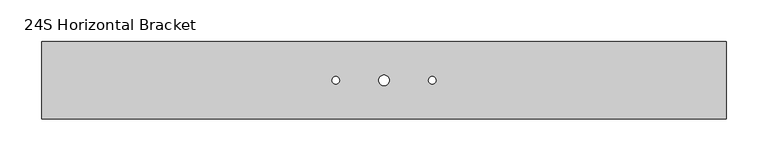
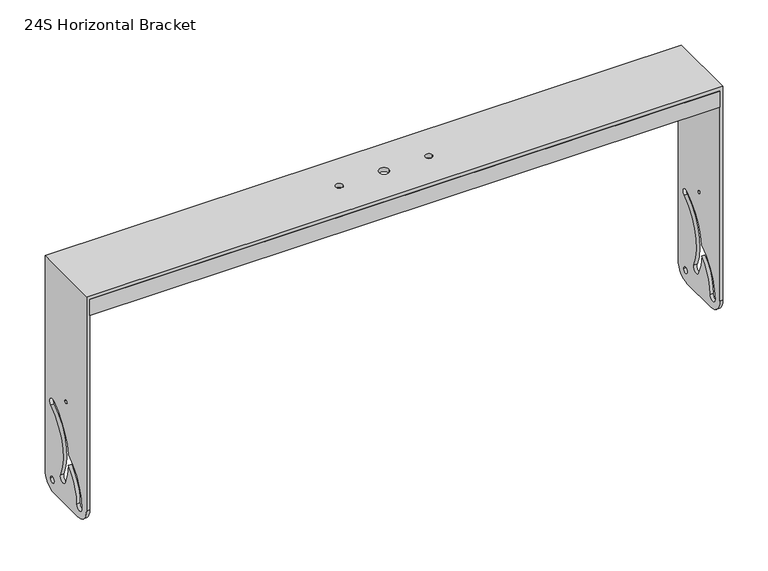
"""IFC4 building model written with IfcOpenShell, lengths in millimetres: proxy geometry, d&b xS-Series 24S Horizontal Bracket : 24S Horizontal Bracket."""

from ifc_helpers import new_model, si_unit, frame, origin, place, context, project, spatial, polyline, circle_curve, outline, extrude, source, transform, mapped, element, save
from ifc_brep_helpers import plane_surface, cylinder_surface, revolved_surface, advanced_brep


def proxy_24s_horizontal_bracket_f759a5f4(model_context):
    return source(origin(), model_context, "Body", "SolidModel", [
        extrude(outline(polyline([(-403.5, -65.7393957), (-403.5, -62.7393957), (403.5, -62.7393957), (403.5, -65.7393957), (-403.5, -65.7393957)])), frame((0.0, 0.0, 290.7707456), z_axis=(0.0, 0.0, 1.0), x_axis=(1.0, 0.0, 0.0)), (0.0, 0.0, 1.0), 22.0),
        extrude(outline(polyline([(-403.5, 23.2606043), (-403.5, 26.2606043), (403.5, 26.2606043), (403.5, 23.2606043), (-403.5, 23.2606043)])), frame((0.0, 0.0, 290.7707456), z_axis=(0.0, 0.0, 1.0), x_axis=(1.0, 0.0, 0.0)), (0.0, 0.0, 1.0), 22.0),
        advanced_brep(
        [(-403.5, 26.2606043, 312.7707456), (-403.5, 26.2606043, 27.7707456), (-407.5, 26.2606043, 27.7707456), (-407.5, 26.2606043, 317.7707456), (407.5, 26.2606043, 317.7707456), (407.5, 26.2606043, 27.7707456), (403.5, 26.2606043, 27.7707456), (403.5, 26.2606043, 312.7707456), (-407.5, -65.7393957, 317.7707456), (-407.5, -65.7393957, 27.7707456), (-403.5, -65.7393957, 27.7707456), (-403.5, -65.7393957, 312.7707456), (403.5, -65.7393957, 312.7707456), (403.5, -65.7393957, 27.7707456), (407.5, -65.7393957, 27.7707456), (407.5, -65.7393957, 317.7707456), (-407.5, 6.2606043, 7.7707456), (-403.5, 6.2606043, 7.7707456), (-403.5, -45.7393957, 7.7707456), (-407.5, -45.7393957, 7.7707456), (-403.5, 6.2606043, 23.7707456), (-403.5, 14.2606043, 23.7707456), (-403.5, -55.239364, 23.7891854), (-403.5, -25.0822236, 78.9466081), (-403.5, 7.223679, 132.2617377), (-403.5, 13.6600188, 123.3378724), (-403.5, -8.4105059, 41.8172211), (-403.5, -18.3552834, 37.1160087), (-403.5, -25.5071972, 64.9060793), (-403.5, -44.2393971, 23.7734128), (-403.5, -21.7393957, 147.7707456), (-403.5, -17.7393957, 147.7707456), (-6.25, -19.7393957, 312.7707456), (6.25, -19.7393957, 312.7707456), (-62.0, -19.7393957, 312.7707456), (-53.0, -19.7393957, 312.7707456), (62.0, -19.7393957, 312.7707456), (53.0, -19.7393957, 312.7707456), (403.5, 6.2606043, 7.7707456), (403.5, -45.7393957, 7.7707456), (403.5, 14.2606043, 23.7707456), (403.5, 6.2606043, 23.7707456), (403.5, -44.2393971, 23.7734128), (403.5, -25.5071972, 64.9060793), (403.5, -18.3552834, 37.1160087), (403.5, -8.4105059, 41.8172211), (403.5, 13.6600188, 123.3378724), (403.5, 7.2266422, 132.2574429), (403.5, -25.0822236, 78.9466081), (403.5, -55.239364, 23.7891854), (403.5, -17.7393957, 147.7707456), (403.5, -21.7393957, 147.7707456), (407.5, 6.2606043, 7.7707456), (407.5, -45.7393957, 7.7707456), (407.5, 6.2606043, 23.7707456), (407.5, 14.2606043, 23.7707456), (407.5, -55.239364, 23.7891854), (407.5, -25.0822236, 78.9466081), (407.5, 7.223679, 132.2617377), (407.5, 13.6600188, 123.3378724), (407.5, -8.4105059, 41.8172211), (407.5, -18.3552834, 37.1160087), (407.5, -25.5071972, 64.9060793), (407.5, -44.2393971, 23.7734128), (407.5, -21.7393957, 147.7707456), (407.5, -17.7393957, 147.7707456), (6.25, -19.7393957, 317.7707456), (-6.25, -19.7393957, 317.7707456), (-53.0, -19.7393957, 317.7707456), (-62.0, -19.7393957, 317.7707456), (53.0, -19.7393957, 317.7707456), (62.0, -19.7393957, 317.7707456), (-407.5, 14.2606043, 23.7707456), (-407.5, 6.2606043, 23.7707456), (-407.5, -44.2393971, 23.7734128), (-407.5, -25.5071972, 64.9060793), (-407.5, -18.3552834, 37.1160087), (-407.5, -8.4105059, 41.8172211), (-407.5, 13.6600188, 123.3378724), (-407.5, 7.2266422, 132.2574429), (-407.5, -25.0822236, 78.9466081), (-407.5, -55.239364, 23.7891854), (-407.5, -17.7393957, 147.7707456), (-407.5, -21.7393957, 147.7707456)],
        [
            (0, 1),
            (1, 2),
            (2, 3),
            (3, 4),
            (4, 5),
            (5, 6),
            (6, 7),
            (7, 0),
            (8, 9),
            (9, 10),
            (10, 11),
            (11, 12),
            (12, 13),
            (13, 14),
            (14, 15),
            (15, 8),
            (16, 17),
            (17, 18),
            (18, 19),
            (19, 16),
            (10, 18, circle_curve(frame((-403.5, -45.7393957, 27.7707456), z_axis=(1.0, 0.0, 0.0), x_axis=(0.0, 0.0, -1.0)), 20.0)),
            (17, 1, circle_curve(frame((-403.5, 6.2606043, 27.7707456), z_axis=(1.0, 0.0, 0.0), x_axis=(0.0, 0.0, -1.0)), 20.0)),
            (0, 11),
            (20, 21, circle_curve(frame((-403.5, 10.2606043, 23.7707456), z_axis=(-1.0, 0.0, 0.0), x_axis=(0.0, -1.0, 0.0)), 4.0)),
            (21, 20, circle_curve(frame((-403.5, 10.2606043, 23.7707456), z_axis=(-1.0, 0.0, 0.0), x_axis=(0.0, -1.0, 0.0)), 4.0)),
            (22, 23, circle_curve(frame((-403.5, 10.4991012, 23.6697649), z_axis=(-1.0, 0.0, 0.0), x_axis=(0.0, -1.0, 0.0)), 65.7385737)),
            (23, 24, circle_curve(frame((-403.5, 50.4326597, 69.6342558), z_axis=(-1.0, 0.0, 0.0), x_axis=(0.0, -1.0, 0.0)), 76.0869076)),
            (24, 25, circle_curve(frame((-403.5, 10.3500362, 127.7303677), z_axis=(-1.0, 0.0, 0.0), x_axis=(0.0, -1.0, 0.0)), 5.5)),
            (25, 26, circle_curve(frame((-403.5, 50.4326597, 69.6342558), z_axis=(1.0, 0.0, 0.0), x_axis=(0.0, -1.0, 0.0)), 65.0869077)),
            (26, 27, circle_curve(frame((-403.5, -13.3828946, 39.4666149), z_axis=(-1.0, 0.0, 0.0), x_axis=(0.0, -1.0, 0.0)), 5.5)),
            (27, 28, circle_curve(frame((-403.5, 50.4326597, 69.6342558), z_axis=(-1.0, 0.0, 0.0), x_axis=(0.0, -1.0, 0.0)), 76.0869077)),
            (28, 29, circle_curve(frame((-403.5, 10.2288078, 23.799827), z_axis=(1.0, 0.0, 0.0), x_axis=(0.0, -1.0, 0.0)), 54.4682113)),
            (29, 22, circle_curve(frame((-403.5, -49.7393957, 23.7707456), z_axis=(-1.0, 0.0, 0.0), x_axis=(0.0, -1.0, 0.0)), 5.4999992)),
            (30, 31, circle_curve(frame((-403.5, -19.7393957, 147.7707456), z_axis=(-1.0, 0.0, 0.0), x_axis=(0.0, -1.0, 0.0)), 2.0)),
            (31, 30, circle_curve(frame((-403.5, -19.7393957, 147.7707456), z_axis=(-1.0, 0.0, 0.0), x_axis=(0.0, -1.0, 0.0)), 2.0)),
            (7, 12),
            (32, 33, circle_curve(frame((0.0, -19.7393957, 312.7707456), z_axis=(0.0, 0.0, 1.0), x_axis=(1.0, 0.0, 0.0)), 6.25)),
            (33, 32, circle_curve(frame((0.0, -19.7393957, 312.7707456), z_axis=(0.0, 0.0, 1.0), x_axis=(1.0, 0.0, 0.0)), 6.25)),
            (34, 35, circle_curve(frame((-57.5, -19.7393957, 312.7707456), z_axis=(0.0, 0.0, 1.0), x_axis=(1.0, 0.0, 0.0)), 4.5)),
            (35, 34, circle_curve(frame((-57.5, -19.7393957, 312.7707456), z_axis=(0.0, 0.0, 1.0), x_axis=(1.0, 0.0, 0.0)), 4.5)),
            (36, 37, circle_curve(frame((57.5, -19.7393957, 312.7707456), z_axis=(0.0, 0.0, 1.0), x_axis=(-1.0, 0.0, 0.0)), 4.5)),
            (37, 36, circle_curve(frame((57.5, -19.7393957, 312.7707456), z_axis=(0.0, 0.0, 1.0), x_axis=(-1.0, 0.0, 0.0)), 4.5)),
            (6, 38, circle_curve(frame((403.5, 6.2606043, 27.7707456), z_axis=(-1.0, 0.0, 0.0), x_axis=(0.0, 0.0, -1.0)), 20.0)),
            (38, 39),
            (39, 13, circle_curve(frame((403.5, -45.7393957, 27.7707456), z_axis=(-1.0, 0.0, 0.0), x_axis=(0.0, 0.0, -1.0)), 20.0)),
            (40, 41, circle_curve(frame((403.5, 10.2606043, 23.7707456), z_axis=(1.0, 0.0, 0.0), x_axis=(0.0, -1.0, 0.0)), 4.0)),
            (41, 40, circle_curve(frame((403.5, 10.2606043, 23.7707456), z_axis=(1.0, 0.0, 0.0), x_axis=(0.0, -1.0, 0.0)), 4.0)),
            (42, 43, circle_curve(frame((403.5, 10.2288078, 23.799827), z_axis=(-1.0, 0.0, 0.0), x_axis=(0.0, -1.0, 0.0)), 54.4682113)),
            (43, 44, circle_curve(frame((403.5, 50.4326597, 69.6342558), z_axis=(1.0, 0.0, 0.0), x_axis=(0.0, -1.0, 0.0)), 76.0869077)),
            (44, 45, circle_curve(frame((403.5, -13.3828946, 39.4666149), z_axis=(1.0, 0.0, 0.0), x_axis=(0.0, -1.0, 0.0)), 5.5)),
            (45, 46, circle_curve(frame((403.5, 50.4326597, 69.6342558), z_axis=(-1.0, 0.0, 0.0), x_axis=(0.0, -1.0, 0.0)), 65.0869077)),
            (46, 47, circle_curve(frame((403.5, 10.3500362, 127.7303677), z_axis=(1.0, 0.0, 0.0), x_axis=(0.0, -1.0, 0.0)), 5.5)),
            (47, 48, circle_curve(frame((403.5, 50.4326597, 69.6342558), z_axis=(1.0, 0.0, 0.0), x_axis=(0.0, -1.0, 0.0)), 76.0869076)),
            (48, 49, circle_curve(frame((403.5, 10.4991012, 23.6697649), z_axis=(1.0, 0.0, 0.0), x_axis=(0.0, -1.0, 0.0)), 65.7385737)),
            (49, 42, circle_curve(frame((403.5, -49.7393957, 23.7707456), z_axis=(1.0, 0.0, 0.0), x_axis=(0.0, -1.0, 0.0)), 5.4999992)),
            (50, 51, circle_curve(frame((403.5, -19.7393957, 147.7707456), z_axis=(1.0, 0.0, 0.0), x_axis=(0.0, -1.0, 0.0)), 2.0)),
            (51, 50, circle_curve(frame((403.5, -19.7393957, 147.7707456), z_axis=(1.0, 0.0, 0.0), x_axis=(0.0, -1.0, 0.0)), 2.0)),
            (38, 52),
            (52, 53),
            (53, 39),
            (14, 53, circle_curve(frame((407.5, -45.7393957, 27.7707456), z_axis=(1.0, 0.0, 0.0), x_axis=(0.0, 0.0, -1.0)), 20.0)),
            (52, 5, circle_curve(frame((407.5, 6.2606043, 27.7707456), z_axis=(1.0, 0.0, 0.0), x_axis=(0.0, 0.0, -1.0)), 20.0)),
            (4, 15),
            (54, 55, circle_curve(frame((407.5, 10.2606043, 23.7707456), z_axis=(-1.0, 0.0, 0.0), x_axis=(0.0, -1.0, 0.0)), 4.0)),
            (55, 54, circle_curve(frame((407.5, 10.2606043, 23.7707456), z_axis=(-1.0, 0.0, 0.0), x_axis=(0.0, -1.0, 0.0)), 4.0)),
            (56, 57, circle_curve(frame((407.5, 10.4991012, 23.6697649), z_axis=(-1.0, 0.0, 0.0), x_axis=(0.0, -1.0, 0.0)), 65.7385737)),
            (57, 58, circle_curve(frame((407.5, 50.4326597, 69.6342558), z_axis=(-1.0, 0.0, 0.0), x_axis=(0.0, -1.0, 0.0)), 76.0869076)),
            (58, 59, circle_curve(frame((407.5, 10.3500362, 127.7303677), z_axis=(-1.0, 0.0, 0.0), x_axis=(0.0, -1.0, 0.0)), 5.5)),
            (59, 60, circle_curve(frame((407.5, 50.4326597, 69.6342558), z_axis=(1.0, 0.0, 0.0), x_axis=(0.0, -1.0, 0.0)), 65.0869077)),
            (60, 61, circle_curve(frame((407.5, -13.3828946, 39.4666149), z_axis=(-1.0, 0.0, 0.0), x_axis=(0.0, -1.0, 0.0)), 5.5)),
            (61, 62, circle_curve(frame((407.5, 50.4326597, 69.6342558), z_axis=(-1.0, 0.0, 0.0), x_axis=(0.0, -1.0, 0.0)), 76.0869077)),
            (62, 63, circle_curve(frame((407.5, 10.2288078, 23.799827), z_axis=(1.0, 0.0, 0.0), x_axis=(0.0, -1.0, 0.0)), 54.4682113)),
            (63, 56, circle_curve(frame((407.5, -49.7393957, 23.7707456), z_axis=(-1.0, 0.0, 0.0), x_axis=(0.0, -1.0, 0.0)), 5.4999992)),
            (64, 65, circle_curve(frame((407.5, -19.7393957, 147.7707456), z_axis=(-1.0, 0.0, 0.0), x_axis=(0.0, -1.0, 0.0)), 2.0)),
            (65, 64, circle_curve(frame((407.5, -19.7393957, 147.7707456), z_axis=(-1.0, 0.0, 0.0), x_axis=(0.0, -1.0, 0.0)), 2.0)),
            (3, 8),
            (66, 67, circle_curve(frame((0.0, -19.7393957, 317.7707456), z_axis=(0.0, 0.0, -1.0), x_axis=(1.0, 0.0, 0.0)), 6.25)),
            (67, 66, circle_curve(frame((0.0, -19.7393957, 317.7707456), z_axis=(0.0, 0.0, -1.0), x_axis=(1.0, 0.0, 0.0)), 6.25)),
            (68, 69, circle_curve(frame((-57.5, -19.7393957, 317.7707456), z_axis=(0.0, 0.0, -1.0), x_axis=(1.0, 0.0, 0.0)), 4.5)),
            (69, 68, circle_curve(frame((-57.5, -19.7393957, 317.7707456), z_axis=(0.0, 0.0, -1.0), x_axis=(1.0, 0.0, 0.0)), 4.5)),
            (70, 71, circle_curve(frame((57.5, -19.7393957, 317.7707456), z_axis=(0.0, 0.0, -1.0), x_axis=(-1.0, 0.0, 0.0)), 4.5)),
            (71, 70, circle_curve(frame((57.5, -19.7393957, 317.7707456), z_axis=(0.0, 0.0, -1.0), x_axis=(-1.0, 0.0, 0.0)), 4.5)),
            (2, 16, circle_curve(frame((-407.5, 6.2606043, 27.7707456), z_axis=(-1.0, 0.0, 0.0), x_axis=(0.0, 0.0, -1.0)), 20.0)),
            (19, 9, circle_curve(frame((-407.5, -45.7393957, 27.7707456), z_axis=(-1.0, 0.0, 0.0), x_axis=(0.0, 0.0, -1.0)), 20.0)),
            (72, 73, circle_curve(frame((-407.5, 10.2606043, 23.7707456), z_axis=(1.0, 0.0, 0.0), x_axis=(0.0, -1.0, 0.0)), 4.0)),
            (73, 72, circle_curve(frame((-407.5, 10.2606043, 23.7707456), z_axis=(1.0, 0.0, 0.0), x_axis=(0.0, -1.0, 0.0)), 4.0)),
            (74, 75, circle_curve(frame((-407.5, 10.2288078, 23.799827), z_axis=(-1.0, 0.0, 0.0), x_axis=(0.0, -1.0, 0.0)), 54.4682113)),
            (75, 76, circle_curve(frame((-407.5, 50.4326597, 69.6342558), z_axis=(1.0, 0.0, 0.0), x_axis=(0.0, -1.0, 0.0)), 76.0869077)),
            (76, 77, circle_curve(frame((-407.5, -13.3828946, 39.4666149), z_axis=(1.0, 0.0, 0.0), x_axis=(0.0, -1.0, 0.0)), 5.5)),
            (77, 78, circle_curve(frame((-407.5, 50.4326597, 69.6342558), z_axis=(-1.0, 0.0, 0.0), x_axis=(0.0, -1.0, 0.0)), 65.0869077)),
            (78, 79, circle_curve(frame((-407.5, 10.3500362, 127.7303677), z_axis=(1.0, 0.0, 0.0), x_axis=(0.0, -1.0, 0.0)), 5.5)),
            (79, 80, circle_curve(frame((-407.5, 50.4326597, 69.6342558), z_axis=(1.0, 0.0, 0.0), x_axis=(0.0, -1.0, 0.0)), 76.0869076)),
            (80, 81, circle_curve(frame((-407.5, 10.4991012, 23.6697649), z_axis=(1.0, 0.0, 0.0), x_axis=(0.0, -1.0, 0.0)), 65.7385737)),
            (81, 74, circle_curve(frame((-407.5, -49.7393957, 23.7707456), z_axis=(1.0, 0.0, 0.0), x_axis=(0.0, -1.0, 0.0)), 5.4999992)),
            (82, 83, circle_curve(frame((-407.5, -19.7393957, 147.7707456), z_axis=(1.0, 0.0, 0.0), x_axis=(0.0, -1.0, 0.0)), 2.0)),
            (83, 82, circle_curve(frame((-407.5, -19.7393957, 147.7707456), z_axis=(1.0, 0.0, 0.0), x_axis=(0.0, -1.0, 0.0)), 2.0)),
            (33, 66),
            (67, 32),
            (35, 68),
            (69, 34),
            (37, 70),
            (71, 36),
            (41, 54),
            (55, 40),
            (73, 20),
            (21, 72),
            (49, 56),
            (63, 42),
            (81, 22),
            (29, 74),
            (48, 57),
            (80, 23),
            (28, 75),
            (62, 43),
            (47, 58),
            (79, 24),
            (46, 59),
            (78, 25),
            (45, 60),
            (77, 26),
            (44, 61),
            (76, 27),
            (51, 64),
            (65, 50),
            (83, 30),
            (31, 82),
        ],
        [
            plane_surface(frame((-297.0, 26.2606043, 7.7707456), z_axis=(0.0, 1.0, 0.0), x_axis=(1.0, 0.0, 0.0))),
            plane_surface(frame((-297.0, -65.7393957, 7.7707456), z_axis=(0.0, -1.0, 0.0), x_axis=(-1.0, 0.0, 0.0))),
            plane_surface(frame((-407.5, 26.2606043, 7.7707456), z_axis=(0.0, 0.0, -1.0), x_axis=(0.0, -1.0, 0.0))),
            plane_surface(frame((-403.5, 26.2606043, 7.7707456), z_axis=(1.0, 0.0, 0.0), x_axis=(0.0, -1.0, 0.0))),
            plane_surface(frame((-403.5, 26.2606043, 312.7707456), z_axis=(0.0, 0.0, -1.0), x_axis=(0.0, -1.0, 0.0))),
            plane_surface(frame((403.5, 26.2606043, 312.7707456), z_axis=(-1.0, 0.0, 0.0), x_axis=(0.0, -1.0, 0.0))),
            plane_surface(frame((403.5, 26.2606043, 7.7707456), z_axis=(0.0, 0.0, -1.0), x_axis=(0.0, -1.0, 0.0))),
            plane_surface(frame((407.5, 26.2606043, 7.7707456), z_axis=(1.0, 0.0, 0.0), x_axis=(0.0, -1.0, 0.0))),
            plane_surface(frame((407.5, 26.2606043, 317.7707456), z_axis=(0.0, 0.0, 1.0), x_axis=(0.0, -1.0, 0.0))),
            plane_surface(frame((-407.5, 26.2606043, 317.7707456), z_axis=(-1.0, 0.0, 0.0), x_axis=(0.0, -1.0, 0.0))),
            cylinder_surface(frame((-450.0, 6.2606043, 27.7707456), z_axis=(-1.0, 0.0, 0.0), x_axis=(0.0, 0.0, -1.0)), 20.0),
            cylinder_surface(frame((0.0, -45.7393957, 27.7707456), z_axis=(-1.0, 0.0, 0.0), x_axis=(0.0, 0.0, -1.0)), 20.0),
            revolved_surface(polyline([(6.25, -19.7393957, 317.7707456), (6.25, -19.7393957, 312.7707456)]), (0.0, -19.7393957, 272.7707456), (0.0, 0.0, 1.0)),
            revolved_surface(polyline([(-53.0, -19.7393957, 317.7707456), (-53.0, -19.7393957, 312.7707456)]), (-57.5, -19.7393957, 287.7707456), (0.0, 0.0, 1.0)),
            revolved_surface(polyline([(53.0, -19.7393957, 317.7707456), (53.0, -19.7393957, 312.7707456)]), (57.5, -19.7393957, 287.7707456), (0.0, 0.0, 1.0)),
            revolved_surface(polyline([(407.5, 6.260604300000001, 23.7707456), (403.5, 6.260604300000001, 23.7707456)]), (-450.0, 10.2606043, 23.7707456), (1.0, 0.0, 0.0)),
            revolved_surface(polyline([(-403.5, 6.260604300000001, 23.7707456), (-407.5, 6.260604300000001, 23.7707456)]), (-450.0, 10.2606043, 23.7707456), (1.0, 0.0, 0.0)),
            revolved_surface(polyline([(407.5, -55.2393949, 23.7707456), (403.5, -55.2393949, 23.7707456)]), (0.0, -49.7393957, 23.7707456), (1.0, 0.0, 0.0)),
            revolved_surface(polyline([(-403.5, -55.2393949, 23.7707456), (-407.5, -55.2393949, 23.7707456)]), (0.0, -49.7393957, 23.7707456), (1.0, 0.0, 0.0)),
            revolved_surface(polyline([(407.5, -55.239472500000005, 23.6697649), (403.5, -55.239472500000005, 23.6697649)]), (0.0, 10.4991012, 23.6697649), (1.0, 0.0, 0.0)),
            revolved_surface(polyline([(-403.5, -55.239472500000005, 23.6697649), (-407.5, -55.239472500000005, 23.6697649)]), (0.0, 10.4991012, 23.6697649), (1.0, 0.0, 0.0)),
            cylinder_surface(frame((0.0, 10.2288078, 23.799827), z_axis=(-1.0, 0.0, 0.0), x_axis=(0.0, -1.0, 0.0)), 54.4682113),
            revolved_surface(polyline([(407.5, -25.6542479, 69.6342558), (403.5, -25.6542479, 69.6342558)]), (0.0, 50.4326597, 69.6342558), (1.0, 0.0, 0.0)),
            revolved_surface(polyline([(-403.5, -25.6542479, 69.6342558), (-407.5, -25.6542479, 69.6342558)]), (0.0, 50.4326597, 69.6342558), (1.0, 0.0, 0.0)),
            revolved_surface(polyline([(407.5, 4.8500362, 127.7303677), (403.5, 4.8500362, 127.7303677)]), (0.0, 10.3500362, 127.7303677), (1.0, 0.0, 0.0)),
            revolved_surface(polyline([(-403.5, 4.8500362, 127.7303677), (-407.5, 4.8500362, 127.7303677)]), (0.0, 10.3500362, 127.7303677), (1.0, 0.0, 0.0)),
            cylinder_surface(frame((0.0, 50.4326597, 69.6342558), z_axis=(-1.0, 0.0, 0.0), x_axis=(0.0, -1.0, 0.0)), 65.0869077),
            revolved_surface(polyline([(407.5, -18.8828946, 39.4666149), (403.5, -18.8828946, 39.4666149)]), (0.0, -13.3828946, 39.4666149), (1.0, 0.0, 0.0)),
            revolved_surface(polyline([(-403.5, -18.8828946, 39.4666149), (-407.5, -18.8828946, 39.4666149)]), (0.0, -13.3828946, 39.4666149), (1.0, 0.0, 0.0)),
            revolved_surface(polyline([(-403.5, -25.654247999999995, 69.6342558), (-407.5, -25.654247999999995, 69.6342558)]), (0.0, 50.4326597, 69.6342558), (1.0, 0.0, 0.0)),
            revolved_surface(polyline([(407.5, -25.654247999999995, 69.6342558), (403.5, -25.654247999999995, 69.6342558)]), (0.0, 50.4326597, 69.6342558), (1.0, 0.0, 0.0)),
            revolved_surface(polyline([(407.5, -21.7393957, 147.7707456), (403.5, -21.7393957, 147.7707456)]), (0.0, -19.7393957, 147.7707456), (1.0, 0.0, 0.0)),
            revolved_surface(polyline([(-403.5, -21.7393957, 147.7707456), (-407.5, -21.7393957, 147.7707456)]), (0.0, -19.7393957, 147.7707456), (1.0, 0.0, 0.0)),
        ],
        [
            (0, [[1, 2, 3, 4, 5, 6, 7, 8]]),
            (1, [[9, 10, 11, 12, 13, 14, 15, 16]]),
            (2, [[17, 18, 19, 20]]),
            (3, [[-11, 21, -18, 22, -1, 23], [24, 25], [26, 27, 28, 29, 30, 31, 32, 33], [34, 35]]),
            (4, [[36, -12, -23, -8], [37, 38], [39, 40], [41, 42]]),
            (5, [[-7, 43, 44, 45, -13, -36], [46, 47], [48, 49, 50, 51, 52, 53, 54, 55], [56, 57]]),
            (6, [[58, 59, 60, -44]]),
            (7, [[-15, 61, -59, 62, -5, 63], [64, 65], [66, 67, 68, 69, 70, 71, 72, 73], [74, 75]]),
            (8, [[76, -16, -63, -4], [77, 78], [79, 80], [81, 82]]),
            (9, [[-3, 83, -20, 84, -9, -76], [85, 86], [87, 88, 89, 90, 91, 92, 93, 94], [95, 96]]),
            (10, [[-22, -17, -83, -2]]),
            (10, [[-62, -58, -43, -6]]),
            (11, [[-45, -60, -61, -14]]),
            (11, [[-84, -19, -21, -10]]),
            (12, [[-38, 97, -78, 98]]),
            (12, [[-77, -97, -37, -98]]),
            (13, [[-40, 99, -80, 100]]),
            (13, [[-79, -99, -39, -100]]),
            (14, [[-42, 101, -82, 102]]),
            (14, [[-81, -101, -41, -102]]),
            (15, [[-47, 103, -65, 104]]),
            (16, [[-86, 105, -25, 106]]),
            (16, [[-24, -105, -85, -106]]),
            (15, [[-64, -103, -46, -104]]),
            (17, [[-55, 107, -73, 108]]),
            (18, [[-94, 109, -33, 110]]),
            (19, [[-54, 111, -66, -107]]),
            (20, [[-93, 112, -26, -109]]),
            (21, [[-32, 113, -87, -110]]),
            (21, [[-72, 114, -48, -108]]),
            (22, [[-53, 115, -67, -111]]),
            (23, [[-92, 116, -27, -112]]),
            (24, [[-52, 117, -68, -115]]),
            (25, [[-91, 118, -28, -116]]),
            (26, [[-51, 119, -69, -117]]),
            (26, [[-90, 120, -29, -118]]),
            (27, [[-50, 121, -70, -119]]),
            (28, [[-89, 122, -30, -120]]),
            (29, [[-31, -122, -88, -113]]),
            (30, [[-71, -121, -49, -114]]),
            (31, [[-57, 123, -75, 124]]),
            (32, [[-96, 125, -35, 126]]),
            (32, [[-34, -125, -95, -126]]),
            (31, [[-74, -123, -56, -124]]),
        ],
    ),
    ])


if __name__ == "__main__":
    model = new_model("IFC4")
    model_context = context("Model", 3, world=origin())
    ifc_project = project(units=[si_unit("LENGTHUNIT", "METRE", prefix="MILLI")], contexts=[model_context])
    site = spatial("IfcSite", under=ifc_project)
    building = spatial("IfcBuilding", under=site)
    placement = place(None, origin())
    proxy_24s_horizontal_bracket_shape = proxy_24s_horizontal_bracket_f759a5f4(model_context)
    element("IfcBuildingElementProxy", 1, Name="d&b xS-Series 24S Horizontal Bracket : 24S Horizontal Bracket", ObjectType="d&b xS-Series 24S Horizontal Bracket : 24S Horizontal Bracket", at=placement, inside=building, context=model_context, shape_type="MappedRepresentation", body=[
        mapped(proxy_24s_horizontal_bracket_shape, transform((0.0, 0.0, 0.0), x_axis=(1.0, 0.0, 0.0), y_axis=(0.0, 1.0, 0.0), z_axis=(0.0, 0.0, 1.0))),
    ])
    save(model, "model.ifc")
